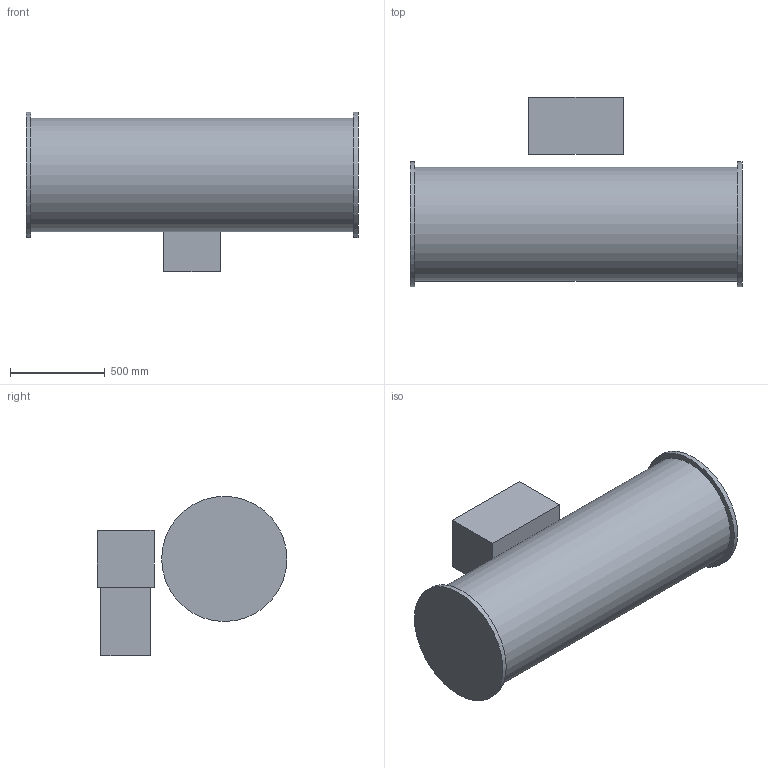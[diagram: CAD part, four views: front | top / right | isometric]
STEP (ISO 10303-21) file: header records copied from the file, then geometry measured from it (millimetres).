
FILE_DESCRIPTION(('Open CASCADE Model'),'2;1');
FILE_NAME('Open CASCADE Shape Model','2026-11-13T06:54:13',('Author'),( 'Open CASCADE'),'Open CASCADE STEP processor 7.9','Open CASCADE 7.9' ,'Unknown');
FILE_SCHEMA(('AUTOMOTIVE_DESIGN { 1 0 10303 214 1 1 1 1 }'));
Length unit declared in the file: millimetre
Products named in the file (19): T4b_resonant_detector; 00_BEAM; 01_NODE_SUPPORT_-1; 02_SUPPORT_POST_-1; 03_NODE_SUPPORT_+1; 04_SUPPORT_POST_+1; 05_STACK_PLATE; 06_STACK_LAYER_1; 07_STACK_LAYER_2; 08_STACK_LAYER_3; 09_VACUUM_TUBE; 10_END_FLANGE_-1; 11_END_FLANGE_+1; 12_IFM_HEAD; 13_IFM_BRACKET; 14_SOURCE_SHIELD; 15_SOURCE; 16_SOURCE_ACCEL; 17_SOURCE_STAND
Assembly tree (18 placements, depth 2):
  T4b_resonant_detector
    00_BEAM
    01_NODE_SUPPORT_-1
    02_SUPPORT_POST_-1
    03_NODE_SUPPORT_+1
    04_SUPPORT_POST_+1
    05_STACK_PLATE
    06_STACK_LAYER_1
    07_STACK_LAYER_2
    08_STACK_LAYER_3
    09_VACUUM_TUBE
    10_END_FLANGE_-1
    11_END_FLANGE_+1
    12_IFM_HEAD
    13_IFM_BRACKET
    14_SOURCE_SHIELD
    15_SOURCE
    16_SOURCE_ACCEL
    17_SOURCE_STAND
Bounding box: 1750 x 1000 x 840 mm (x, y, z)
Volume: 167280572.9 mm3; surface area: 13286813.1 mm2
Topology: 18 solids, 18 shells, 94 faces, 174 edges, 116 vertices
Faces by surface type: plane 88, cylinder 6
Full cylindrical faces by diameter (mm): 30 x1, 160 x1, 584 x1, 600 x1, 660 x2
Entity records: 5010 total; most frequent: DIRECTION 760, CARTESIAN_POINT 751, LINE 498, VECTOR 498, ORIENTED_EDGE 348, PCURVE 348, DEFINITIONAL_REPRESENTATION 348, EDGE_CURVE 174
